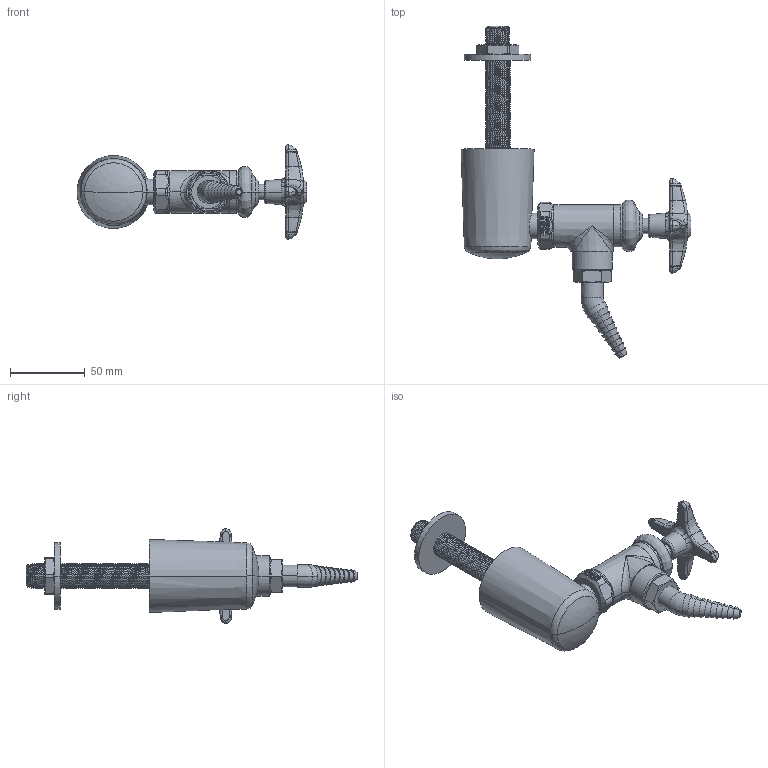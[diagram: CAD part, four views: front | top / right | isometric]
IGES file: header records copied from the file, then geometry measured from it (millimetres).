
Start section:  PTC IGES file: LWV2-A22-10.igs
Global section: file name: LWV2-A22-10.igs; native system: Creo Parametric by PTC Inc.; preprocessor: 2014500; author: usch_engrender; organization: Unknown; date: 20151112.165206; units: inch
Bounding box: 154.29 x 222.79 x 63.41 mm (x, y, z)
Volume: 203780.6 mm3; surface area: 48830.6 mm2
Topology: 1 solids, 5 shells, 848 faces, 2084 edges, 1267 vertices
Faces by surface type: bspline 444, revolution 404
